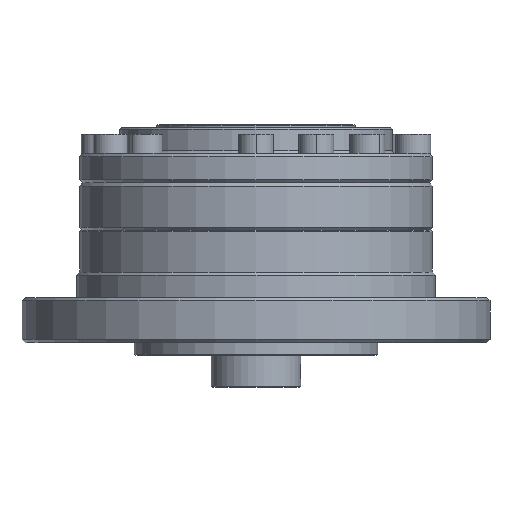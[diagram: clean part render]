
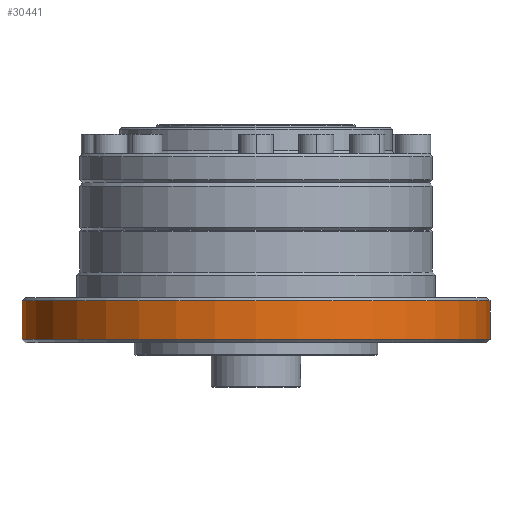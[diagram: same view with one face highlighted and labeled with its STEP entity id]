
A CAD part, front view. The second image highlights one B-rep face of the part: STEP entity #30441.
In plain terms, the highlighted cylindrical face has radius 36.5 mm (diameter 73 mm), a partial arc.
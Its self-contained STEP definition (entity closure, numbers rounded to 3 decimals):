
#2048 = CARTESIAN_POINT ( 'NONE',  ( -36.5, 0., 8.5 ) ) ;
#3137 = CARTESIAN_POINT ( 'NONE',  ( 36.5, 0., 8.5 ) ) ;
#3144 = VERTEX_POINT ( 'NONE', #3137 ) ;
#3746 = AXIS2_PLACEMENT_3D ( 'NONE', #10942, #24375, #18316 ) ;
#4586 = ORIENTED_EDGE ( 'NONE', *, *, #31258, .T. ) ;
#5753 = EDGE_CURVE ( 'NONE', #3144, #23209, #31510, .T. ) ;
#6237 = AXIS2_PLACEMENT_3D ( 'NONE', #19692, #30141, #27555 ) ;
#6326 = ORIENTED_EDGE ( 'NONE', *, *, #5753, .T. ) ;
#6754 = DIRECTION ( 'NONE',  ( 0., 0., 1. ) ) ;
#7917 = CARTESIAN_POINT ( 'NONE',  ( -36.5, 0., 2.5 ) ) ;
#9072 = VECTOR ( 'NONE', #26014, 1000. ) ;
#10942 = CARTESIAN_POINT ( 'NONE',  ( 0., 0., 8.5 ) ) ;
#12104 = FACE_OUTER_BOUND ( 'NONE', #29486, .T. ) ;
#12339 = CARTESIAN_POINT ( 'NONE',  ( 36.5, 0., 2.5 ) ) ;
#15513 = CARTESIAN_POINT ( 'NONE',  ( -36.5, 0., 29.512 ) ) ;
#15656 = ORIENTED_EDGE ( 'NONE', *, *, #28913, .T. ) ;
#16019 = LINE ( 'NONE', #15513, #9072 ) ;
#16584 = EDGE_CURVE ( 'NONE', #18136, #23209, #16019, .T. ) ;
#18136 = VERTEX_POINT ( 'NONE', #7917 ) ;
#18316 = DIRECTION ( 'NONE',  ( -1., 0., 0. ) ) ;
#19692 = CARTESIAN_POINT ( 'NONE',  ( 0., 0., 29.512 ) ) ;
#22415 = CARTESIAN_POINT ( 'NONE',  ( 0., 0., 2.5 ) ) ;
#22652 = ORIENTED_EDGE ( 'NONE', *, *, #16584, .F. ) ;
#23209 = VERTEX_POINT ( 'NONE', #2048 ) ;
#23870 = DIRECTION ( 'NONE',  ( 0., 0., 1. ) ) ;
#23879 = VECTOR ( 'NONE', #23870, 1000. ) ;
#24375 = DIRECTION ( 'NONE',  ( 0., 0., -1. ) ) ;
#24768 = VERTEX_POINT ( 'NONE', #12339 ) ;
#25032 = DIRECTION ( 'NONE',  ( 1., 0., 0. ) ) ;
#26014 = DIRECTION ( 'NONE',  ( 0., 0., 1. ) ) ;
#27208 = AXIS2_PLACEMENT_3D ( 'NONE', #22415, #6754, #25032 ) ;
#27555 = DIRECTION ( 'NONE',  ( 1., 0., 0. ) ) ;
#27719 = CIRCLE ( 'NONE', #27208, 36.5 ) ;
#28913 = EDGE_CURVE ( 'NONE', #18136, #24768, #27719, .T. ) ;
#29486 = EDGE_LOOP ( 'NONE', ( #22652, #15656, #4586, #6326 ) ) ;
#30141 = DIRECTION ( 'NONE',  ( 0., 0., 1. ) ) ;
#30441 = ADVANCED_FACE ( 'NONE', ( #12104 ), #32064, .T. ) ;
#30795 = LINE ( 'NONE', #31584, #23879 ) ;
#31258 = EDGE_CURVE ( 'NONE', #24768, #3144, #30795, .T. ) ;
#31510 = CIRCLE ( 'NONE', #3746, 36.5 ) ;
#31584 = CARTESIAN_POINT ( 'NONE',  ( 36.5, 0., 29.512 ) ) ;
#32064 = CYLINDRICAL_SURFACE ( 'NONE', #6237, 36.5 ) ;
